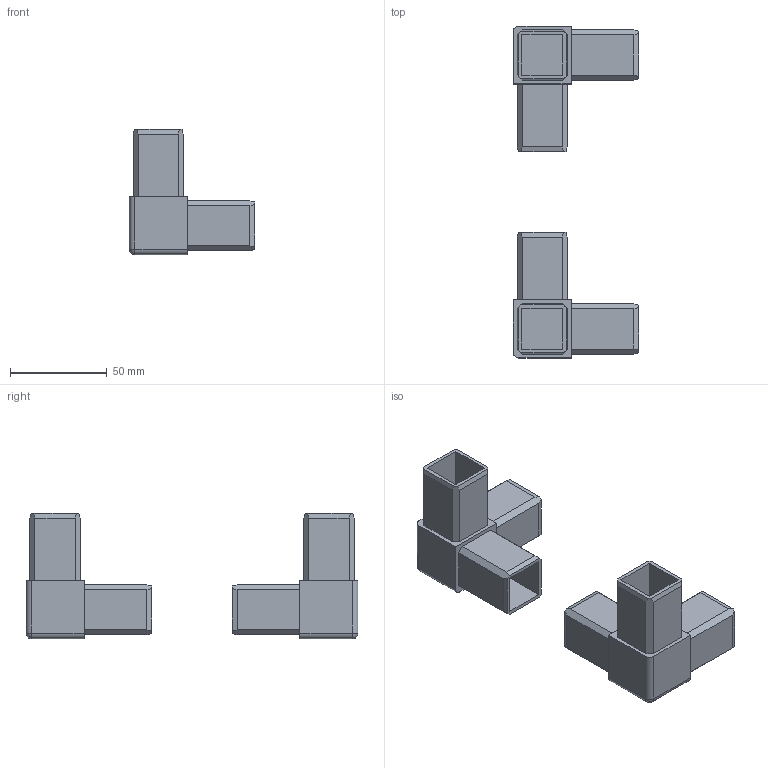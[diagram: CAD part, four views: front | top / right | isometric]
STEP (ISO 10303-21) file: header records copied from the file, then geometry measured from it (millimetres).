
FILE_DESCRIPTION (( 'STEP AP214' ), '1' );
FILE_NAME ('L15813 ENS.step', '2024-12-03T16:21:52', ( '' ), ( '' ), 'SwSTEP 2.0', 'SolidWorks 2023', '' );
FILE_SCHEMA (( 'AUTOMOTIVE_DESIGN' ));
Length unit declared in the file: millimetre
Products named in the file (2): L15813; L15813 ENS
Assembly tree (2 placements, depth 2):
  L15813 ENS
    L15813  x2
Bounding box: 65 x 171.69 x 65 mm (x, y, z)
Volume: 69316.2 mm3; surface area: 50706.4 mm2
Topology: 2 solids, 2 shells, 116 faces, 314 edges, 204 vertices
Faces by surface type: plane 108, cylinder 6, sphere 2
Entity records: 1849 total; most frequent: CARTESIAN_POINT 321, ORIENTED_EDGE 312, DIRECTION 288, EDGE_CURVE 156, LINE 150, VECTOR 150, VERTEX_POINT 102, AXIS2_PLACEMENT_3D 69
